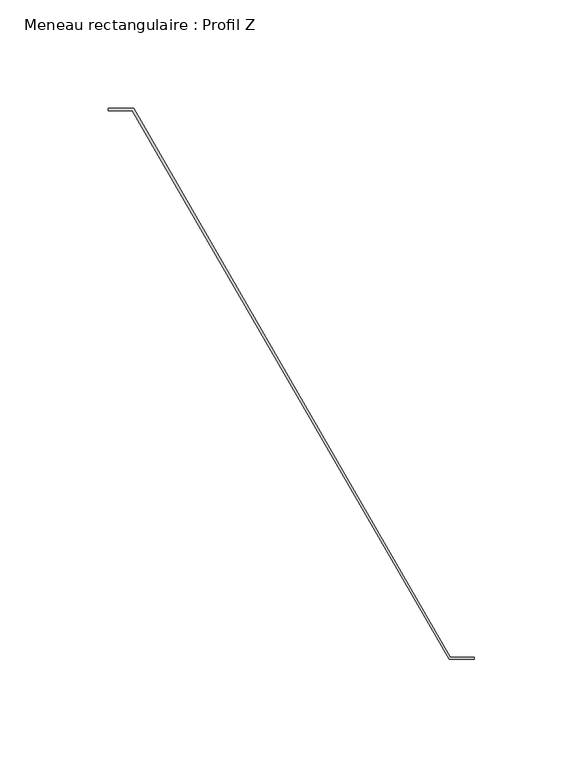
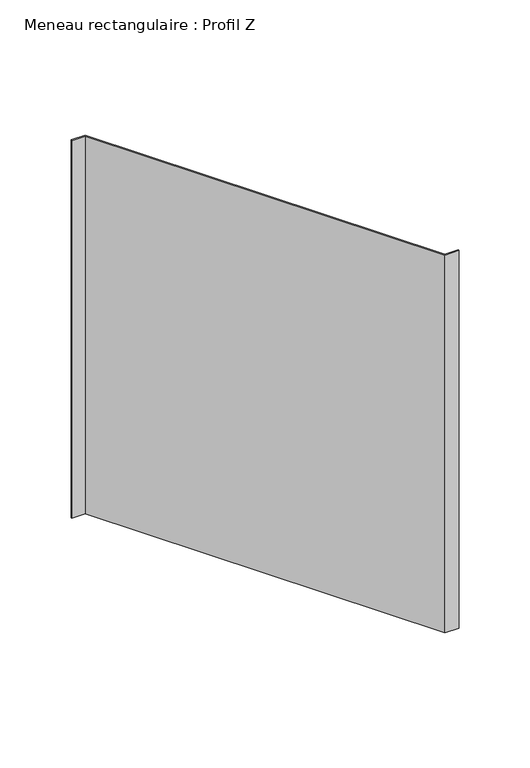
"""IFC4 building model written with IfcOpenShell, lengths in millimetres: member geometry, Meneau rectangulaire : Profil Z."""

from ifc_helpers import new_model, si_unit, frame, origin, place, context, project, spatial, polyline, outline, extrude, source, transform, mapped, element, save


def meneau_rectangulaire_profil_z_4de1974e(model_context):
    return source(origin(), model_context, "Body", "SweptSolid", [
        extrude(outline(polyline([(72.7461339, -87.0), (-73.3234842, 166.0), (-84.2931393, 166.0), (-84.2931393, 167.0), (-72.7461339, 167.0), (73.3234842, -86.0), (84.2931393, -86.0), (84.2931393, -87.0), (72.7461339, -87.0)])), frame((0.0, 0.0, -324.3), z_axis=(0.0, 0.0, 1.0), x_axis=(1.0, 0.0, 0.0)), (0.0, 0.0, 1.0), 324.3),
    ])


if __name__ == "__main__":
    model = new_model("IFC4")
    model_context = context("Model", 3, world=origin())
    ifc_project = project(units=[si_unit("LENGTHUNIT", "METRE", prefix="MILLI")], contexts=[model_context])
    site = spatial("IfcSite", under=ifc_project)
    building = spatial("IfcBuilding", under=site)
    placement = place(None, origin())
    meneau_rectangulaire_profil_z_shape = meneau_rectangulaire_profil_z_4de1974e(model_context)
    element("IfcMember", 1, ObjectType="Meneau rectangulaire : Profil Z", at=placement, inside=building, context=model_context, shape_type="MappedRepresentation", body=[
        mapped(meneau_rectangulaire_profil_z_shape, transform((0.0, 0.0, 0.0), x_axis=(1.0, 0.0, 0.0), y_axis=(0.0, 1.0, 0.0), z_axis=(0.0, 0.0, 1.0))),
    ])
    save(model, "model.ifc")
